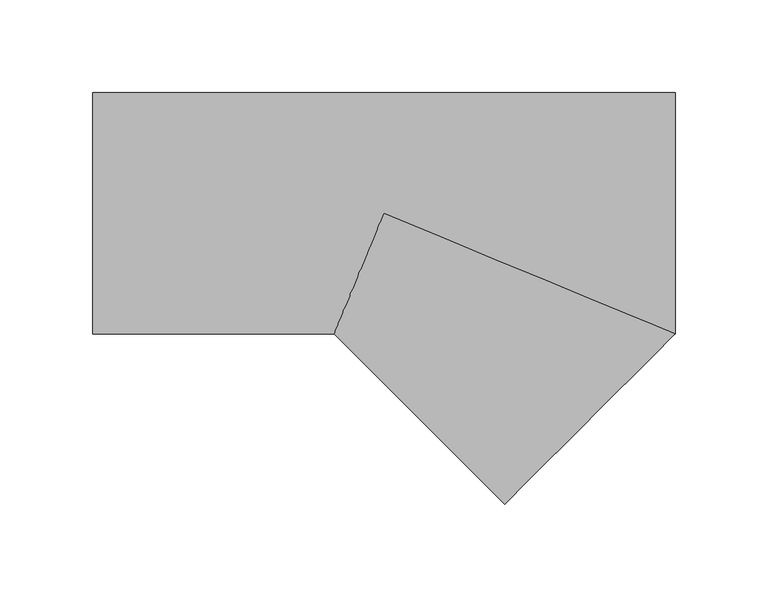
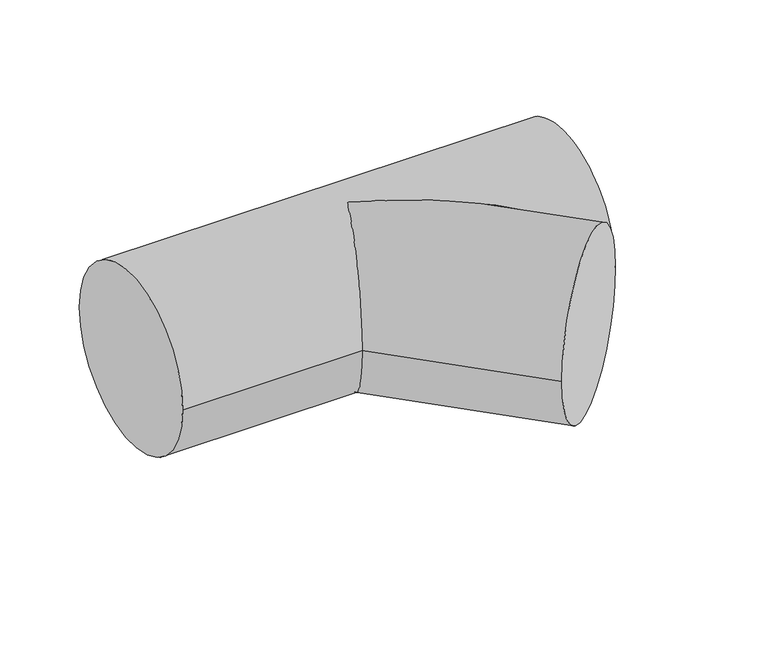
"""IFC4 building model written with IfcOpenShell, lengths in millimetres: pipe fitting geometry, M_Te - Genérica : Estándar."""

import ifcopenshell
import ifcopenshell.guid

model = None  # the IFC model being written
_history = None  # IfcOwnerHistory: only IFC2X3 demands one
_inside = {}  # id of a spatial element -> (the spatial element, [elements in it])
_under = {}  # id of a project, library or spatial element -> (it, [spatial elements below it])
_declared = {}  # id of a project -> (the project, [libraries it declares])
_typed = {}  # id of a type object -> (the type object, [elements of that type])
_made_of = {}  # id of a material, layer set ... -> (it, [elements and type objects made of it])


def new_model(schema):
    """Start an empty IFC model of exactly this schema.

    Asked for "IFC4X3", IfcOpenShell would pick the latest addendum, in which some entities
    have other attributes; the version numbers below select the first issue.
    IFC2X3 requires an IfcOwnerHistory on every rooted entity: one is made here for all.
    """
    global model, _history
    if schema == "IFC4X3":
        model = ifcopenshell.file(schema_version=(4, 3, 0, 0))
    else:
        model = ifcopenshell.file(schema=schema)
    _inside.clear()
    _under.clear()
    _declared.clear()
    _typed.clear()
    _made_of.clear()
    _history = None
    if model.schema == "IFC2X3":
        org = make("IfcOrganization", Name="unknown")
        user = make(
            "IfcPersonAndOrganization",
            ThePerson=make("IfcPerson", FamilyName="unknown"),
            TheOrganization=org,
        )
        app = make(
            "IfcApplication",
            ApplicationDeveloper=org,
            Version="unknown",
            ApplicationFullName="unknown",
            ApplicationIdentifier="unknown",
        )
        _history = make(
            "IfcOwnerHistory",
            OwningUser=user,
            OwningApplication=app,
            ChangeAction="ADDED",
            CreationDate=0,
        )
    return model


def make(cls, **values):
    """One entity of the class cls with the attributes given. An attribute that is None is left unset."""
    return model.create_entity(
        cls, **{name: value for name, value in values.items() if value is not None}
    )


def rooted(cls, **values):
    """An entity with a GlobalId (a new one), such as an element, a storey or a relation."""
    return make(cls, GlobalId=ifcopenshell.guid.new(), OwnerHistory=_history, **values)


def si_unit(unit_type, name, prefix=None):
    """IfcSIUnit, for example si_unit("LENGTHUNIT", "METRE", prefix="MILLI")."""
    return make("IfcSIUnit", UnitType=unit_type, Prefix=prefix, Name=name)


def assignment(units):
    """IfcUnitAssignment: the units of a project."""
    return None if units is None else make("IfcUnitAssignment", Units=units)


def point(xyz):
    """IfcCartesianPoint."""
    return None if xyz is None else make("IfcCartesianPoint", Coordinates=xyz)


def direction(xyz):
    """IfcDirection."""
    return None if xyz is None else make("IfcDirection", DirectionRatios=xyz)


def frame(location, z_axis=None, x_axis=None):
    """IfcAxis2Placement3D, a coordinate frame: its origin and axes. An axis left out is left unset."""
    return make(
        "IfcAxis2Placement3D",
        Location=point(location),
        Axis=direction(z_axis),
        RefDirection=direction(x_axis),
    )


def origin():
    """The frame at (0, 0, 0) with its axes left unset."""
    return frame((0.0, 0.0, 0.0))


def place(relative_to, where):
    """IfcLocalPlacement: puts the frame where relative to a parent placement (None: the world)."""
    return make(
        "IfcLocalPlacement", PlacementRelTo=relative_to, RelativePlacement=where
    )


def context(
    kind, dimensions, precision=None, world=None, true_north=None, identifier=None
):
    """IfcGeometricRepresentationContext, for example the 3D "Model" context."""
    return make(
        "IfcGeometricRepresentationContext",
        ContextIdentifier=identifier,
        ContextType=kind,
        CoordinateSpaceDimension=dimensions,
        Precision=precision,
        WorldCoordinateSystem=world,
        TrueNorth=true_north,
    )


def project(units=None, contexts=None):
    """IfcProject with its units and contexts."""
    return rooted(
        "IfcProject",
        Name="project",
        RepresentationContexts=contexts,
        UnitsInContext=assignment(units),
    )


def spatial(cls, under=None, at=None, **own):
    """A site, building, storey or space (cls), placed at a placement, below another one or the project."""
    s = rooted(cls, ObjectPlacement=at, **own)
    if under is not None:
        _under.setdefault(under.id(), (under, []))[1].append(s)
    return s


def circle_curve(where, radius):
    """IfcCircle in the frame where."""
    return make("IfcCircle", Position=where, Radius=radius)


def ellipse_curve(where, semi_axis1, semi_axis2):
    """IfcEllipse in the frame where."""
    return make(
        "IfcEllipse", Position=where, SemiAxis1=semi_axis1, SemiAxis2=semi_axis2
    )


def shape(context_of_items, identifier, shape_type, items):
    """IfcShapeRepresentation: the items that make up one representation, for example the "Body"."""
    return make(
        "IfcShapeRepresentation",
        ContextOfItems=context_of_items,
        RepresentationIdentifier=identifier,
        RepresentationType=shape_type,
        Items=items,
    )


def source(mapping_origin, context_of_items, identifier, shape_type, items):
    """IfcRepresentationMap: a shape defined once, which mapped items show again and again."""
    return make(
        "IfcRepresentationMap",
        MappingOrigin=mapping_origin,
        MappedRepresentation=shape(context_of_items, identifier, shape_type, items),
    )


def transform(
    local_origin,
    x_axis=None,
    y_axis=None,
    z_axis=None,
    scale=None,
    scale2=None,
    scale3=None,
    uniform=True,
):
    """IfcCartesianTransformationOperator3D, or its non-uniform kind. x_axis, y_axis, z_axis: its Axis1, 2, 3."""
    if uniform:
        return make(
            "IfcCartesianTransformationOperator3D",
            Axis1=direction(x_axis),
            Axis2=direction(y_axis),
            LocalOrigin=point(local_origin),
            Scale=scale,
            Axis3=direction(z_axis),
        )
    return make(
        "IfcCartesianTransformationOperator3DnonUniform",
        Axis1=direction(x_axis),
        Axis2=direction(y_axis),
        LocalOrigin=point(local_origin),
        Scale=scale,
        Axis3=direction(z_axis),
        Scale2=scale2,
        Scale3=scale3,
    )


def mapped(mapping_source, mapping_target):
    """IfcMappedItem: shows the shape of a source again, moved by a transform."""
    return make(
        "IfcMappedItem", MappingSource=mapping_source, MappingTarget=mapping_target
    )


def made_of(thing, what):
    """Note that an element or type object is made of a material, layer set ...; save() writes the relation."""
    if what is not None:
        _made_of.setdefault(what.id(), (what, []))[1].append(thing)
    return thing


def element(
    cls,
    number,
    at=None,
    inside=None,
    cuts=None,
    type_object=None,
    material=None,
    context=None,
    identifier="Body",
    shape_type=None,
    held_by="IfcProductDefinitionShape",
    body=None,
    shapes=None,
    **own,
):
    """One element of the class cls, such as IfcWall. Its Tag is "e" and its number.

    at: its placement. inside: the storey or other place that contains it. cuts: it is an
    opening in that element (IfcRelVoidsElement). A single representation is given by context,
    identifier, shape_type and body (its items); several are given by shapes. held_by: the class
    of the entity that holds the representations. save() writes the other relations.
    """
    e = rooted(cls, Tag="e%d" % number, ObjectPlacement=at, **own)
    if body is not None:
        shapes = [shape(context, identifier, shape_type, body)]
    if shapes is not None:
        e.Representation = make(held_by, Representations=shapes)
    if inside is not None:
        _inside.setdefault(inside.id(), (inside, []))[1].append(e)
    if cuts is not None:
        rooted(
            "IfcRelVoidsElement", RelatingBuildingElement=cuts, RelatedOpeningElement=e
        )
    if type_object is not None:
        _typed.setdefault(type_object.id(), (type_object, []))[1].append(e)
    return made_of(e, material)


def aggregate(whole, parts):
    """IfcRelAggregates: a whole, such as a stair, and the parts it consists of."""
    return rooted("IfcRelAggregates", RelatingObject=whole, RelatedObjects=parts)


def save(model, path):
    """Write the relations noted so far, then the file.

    IfcRelAggregates (storeys below a building ...), IfcRelContainedInSpatialStructure (elements
    in a storey), IfcRelDefinesByType, IfcRelAssociatesMaterial and IfcRelDeclares: one each for
    every whole, place, type object, material and project.
    """
    for whole, parts in _under.values():
        aggregate(whole, parts)
    for where, things in _inside.values():
        rooted(
            "IfcRelContainedInSpatialStructure",
            RelatedElements=things,
            RelatingStructure=where,
        )
    for kind, things in _typed.values():
        rooted("IfcRelDefinesByType", RelatedObjects=things, RelatingType=kind)
    for what, things in _made_of.values():
        rooted("IfcRelAssociatesMaterial", RelatedObjects=things, RelatingMaterial=what)
    for by, libraries in _declared.values():
        rooted("IfcRelDeclares", RelatingContext=by, RelatedDefinitions=libraries)
    model.write(path)


def plane_surface(at):
    """IfcPlane: the flat surface through the origin of the frame at, square to its z axis."""
    return make("IfcPlane", Position=at)


def cylinder_surface(at, radius):
    """IfcCylindricalSurface: all points at the distance radius from the z axis of the frame at."""
    return make("IfcCylindricalSurface", Position=at, Radius=radius)


def advanced_brep(points, edges, surfaces, faces):
    """IfcAdvancedBrep: a solid bounded by faces that lie on surfaces and meet in shared edges.

    An edge is (start, end): straight between two places in points (the first is 0);
    or (start, end, curve); or (start, end, curve, False) where it runs against its curve.
    A face is (place in surfaces, loops), or (place, loops, False) where it looks against
    its surface's normal. A loop lists edges by number (the first is 1), with a minus sign
    where the edge is run from its end to its start. The first loop is the outer one.
    """
    corners = [point(p) for p in points]
    vertices = [make("IfcVertexPoint", VertexGeometry=c) for c in corners]
    made = []
    for start, end, *more in edges:
        made.append(
            make(
                "IfcEdgeCurve",
                EdgeStart=vertices[start],
                EdgeEnd=vertices[end],
                EdgeGeometry=more[0] if more else make("IfcPolyline", Points=[corners[start], corners[end]]),
                SameSense=more[1] if len(more) > 1 else True,
            )
        )
    hull = []
    for where, loops, *sense in faces:
        bounds = []
        for j, loop in enumerate(loops):
            ring = [make("IfcOrientedEdge", EdgeElement=made[abs(k) - 1], Orientation=k > 0) for k in loop]
            bounds.append(
                make(
                    "IfcFaceOuterBound" if j == 0 else "IfcFaceBound",
                    Bound=make("IfcEdgeLoop", EdgeList=ring),
                    Orientation=True,
                )
            )
        hull.append(make("IfcAdvancedFace", Bounds=bounds, FaceSurface=surfaces[where], SameSense=sense[0] if sense else True))
    return make("IfcAdvancedBrep", Outer=make("IfcClosedShell", CfsFaces=hull))


def pipe_fitting_ab36f62d(model_context):
    return source(origin(), model_context, "Body", "AdvancedBrep", [
        advanced_brep(
        [(-157.1443297, -65.0875, 0.0), (-157.1443297, 65.0875, 0.0), (157.1443297, -65.0875, 0.0), (157.1443297, 65.0875, 0.0), (-26.9585461, -65.0875, 0.0), (0.0, 0.0, 65.0875), (0.0, 0.0, -65.0875), (65.100517, -157.1389376, 0.0)],
        [
            (0, 1, circle_curve(frame((-157.1443297, 0.0, 0.0), z_axis=(-1.0, 0.0, 0.0), x_axis=(0.0, 1.0, 0.0)), 65.0875)),
            (1, 0, circle_curve(frame((-157.1443297, 0.0, 0.0), z_axis=(-1.0, 0.0, 0.0), x_axis=(0.0, 1.0, 0.0)), 65.0875)),
            (2, 3, circle_curve(frame((157.1443297, 0.0, 0.0), z_axis=(1.0, 0.0, 0.0), x_axis=(0.0, 1.0, 0.0)), 65.0875)),
            (3, 2, circle_curve(frame((157.1443297, 0.0, 0.0), z_axis=(1.0, 0.0, 0.0), x_axis=(0.0, 1.0, 0.0)), 65.0875)),
            (0, 4),
            (4, 5, ellipse_curve(frame((0.0, 0.0, 0.0), z_axis=(-0.9238874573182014, 0.38266429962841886, 0.0), x_axis=(-0.38266429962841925, -0.9238874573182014, 0.0)), 70.449598, 65.0875)),
            (5, 2, ellipse_curve(frame((0.0, 0.0, 0.0), z_axis=(0.38266429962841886, 0.9238874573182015, 0.0), x_axis=(-0.9238874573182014, 0.38266429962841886, 0.0)), 170.0903378, 65.0875)),
            (3, 1),
            (2, 6, ellipse_curve(frame((0.0, 0.0, 0.0), z_axis=(0.38266429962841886, 0.9238874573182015, 0.0), x_axis=(-0.9238874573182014, 0.38266429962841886, 0.0)), 170.0903378, 65.0875)),
            (6, 4, ellipse_curve(frame((0.0, 0.0, 0.0), z_axis=(-0.9238874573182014, 0.38266429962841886, 0.0), x_axis=(-0.38266429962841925, -0.9238874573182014, 0.0)), 70.449598, 65.0875)),
            (7, 2, circle_curve(frame((111.1224234, -111.1132188, 0.0), z_axis=(0.7071360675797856, -0.7070774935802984, 0.0), x_axis=(0.7070774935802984, 0.7071360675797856, 0.0)), 65.0875)),
            (2, 7, circle_curve(frame((111.1224234, -111.1132188, 0.0), z_axis=(0.7071360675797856, -0.7070774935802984, 0.0), x_axis=(0.7070774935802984, 0.7071360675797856, 0.0)), 65.0875)),
            (4, 7),
        ],
        [
            plane_surface(frame((-157.1443297, 0.0, 0.0), z_axis=(-1.0, 0.0, 0.0), x_axis=(0.0, 0.0, 1.0))),
            plane_surface(frame((157.1443297, 0.0, 0.0), z_axis=(1.0, 0.0, 0.0), x_axis=(0.0, 0.0, 1.0))),
            cylinder_surface(frame((-157.1443297, 0.0, 0.0), z_axis=(-1.0, 0.0, 0.0), x_axis=(0.0, 1.0, 0.0)), 65.0875),
            plane_surface(frame((111.1224234, -111.1132188, 0.0), z_axis=(0.7071360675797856, -0.7070774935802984, 0.0), x_axis=(0.0, 0.0, 1.0))),
            cylinder_surface(frame((0.0, 0.0, 0.0), z_axis=(-0.7071360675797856, 0.7070774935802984, 0.0), x_axis=(0.7070774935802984, 0.7071360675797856, 0.0)), 65.0875),
        ],
        [
            (0, [[1, 2]]),
            (1, [[3, 4]]),
            (2, [[-1, 5, 6, 7, -4, 8]]),
            (2, [[-2, -8, -3, 9, 10, -5]]),
            (3, [[11, 12]]),
            (4, [[-12, -7, -6, 13]]),
            (4, [[-11, -13, -10, -9]]),
        ],
    ),
    ])


if __name__ == "__main__":
    model = new_model("IFC4")
    model_context = context("Model", 3, world=origin())
    ifc_project = project(units=[si_unit("LENGTHUNIT", "METRE", prefix="MILLI")], contexts=[model_context])
    site = spatial("IfcSite", under=ifc_project)
    building = spatial("IfcBuilding", under=site)
    placement = place(None, origin())
    pipe_fitting_shape = pipe_fitting_ab36f62d(model_context)
    element("IfcPipeFitting", 1, ObjectType="M_Te - Genérica : Estándar", at=placement, inside=building, context=model_context, shape_type="MappedRepresentation", body=[
        mapped(pipe_fitting_shape, transform((0.0, 0.0, 0.0), x_axis=(1.0, 0.0, 0.0), y_axis=(0.0, 1.0, 0.0), z_axis=(0.0, 0.0, 1.0))),
    ])
    save(model, "model.ifc")
